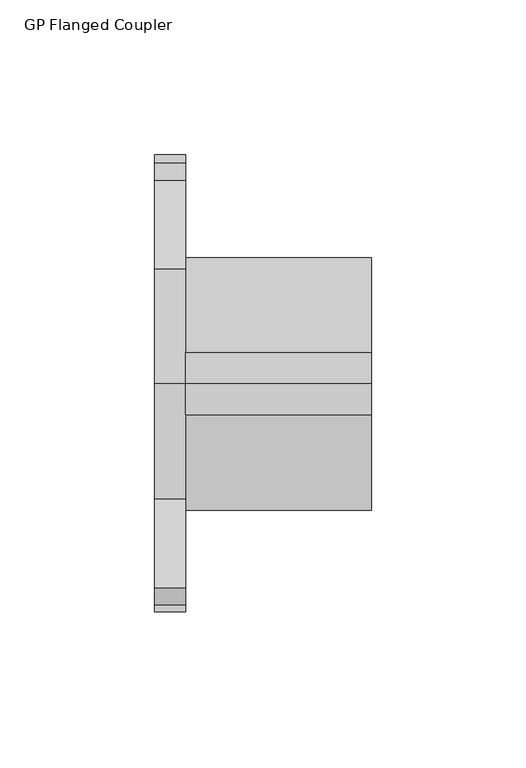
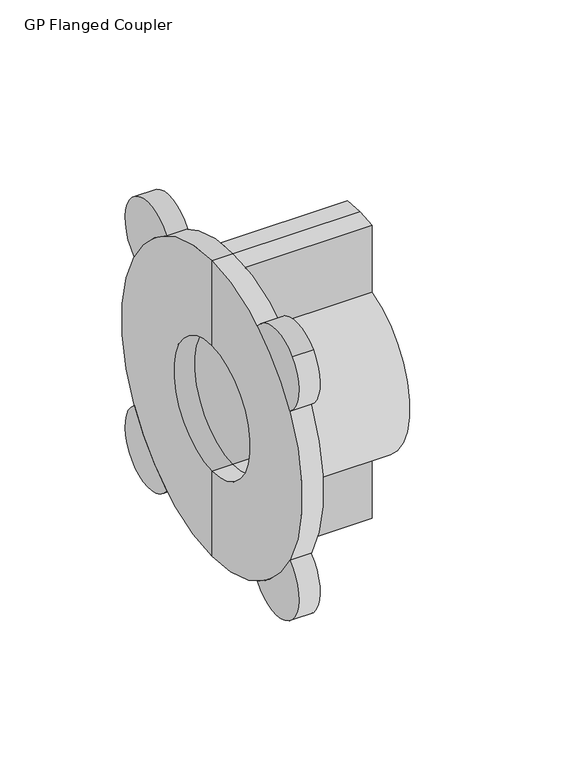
"""IFC4 building model written with IfcOpenShell, lengths in millimetres: pipe fitting geometry, Plumbing-Pipe-Fittings_Pexgol_Flange-GP-Flange-Coupling : GP Flanged Coupler."""

from ifc_helpers import new_model, si_unit, point, frame, frame_2d, origin, origin_2d, place, context, project, spatial, polyline, circle_curve, trimmed, segment, composite_curve, outline, extrude, source, transform, mapped, element, save
from ifc_brep_helpers import plane_surface, cylinder_surface, revolved_surface, advanced_brep


def gp_flanged_coupler_8253ec33(model_context):
    return source(origin(), model_context, "Body", "SolidModel", [
        extrude(outline(composite_curve([segment(trimmed(circle_curve(frame_2d((-52.3259018, -52.3259018)), 19.0), [point((-37.2772771, -63.9249921))], [point((-65.7609307, -65.7609307))], False, "CARTESIAN"), True, "CONTINUOUS"), segment(trimmed(circle_curve(frame_2d((-52.3259018, -52.3259018)), 19.0), [point((-65.7609307, -65.7609307))], [point((-63.9249921, -37.2772771))], False, "CARTESIAN"), True, "CONTINUOUS"), segment(trimmed(circle_curve(origin_2d(), 74.0), [point((-63.9249921, -37.2772771))], [point((-37.2772771, -63.9249921))], True, "CARTESIAN"), True, "CONTINUOUS")], self_intersect=False)), frame((0.0, 0.0, 0.0), z_axis=(1.0, 0.0, 0.0), x_axis=(0.0, 1.0, 0.0)), (0.0, 0.0, 1.0), 10.0),
        extrude(outline(composite_curve([segment(trimmed(circle_curve(frame_2d((52.3259018, -52.3259018)), 19.0), [point((63.9249921, -37.2772771))], [point((65.7609307, -65.7609307))], False, "CARTESIAN"), True, "CONTINUOUS"), segment(trimmed(circle_curve(frame_2d((52.3259018, -52.3259018)), 19.0), [point((65.7609307, -65.7609307))], [point((37.2772771, -63.9249921))], False, "CARTESIAN"), True, "CONTINUOUS"), segment(trimmed(circle_curve(origin_2d(), 74.0), [point((37.2772771, -63.9249921))], [point((63.9249921, -37.2772771))], True, "CARTESIAN"), True, "CONTINUOUS")], self_intersect=False)), frame((0.0, 0.0, 0.0), z_axis=(1.0, 0.0, 0.0), x_axis=(0.0, 1.0, 0.0)), (0.0, 0.0, 1.0), 10.0),
        extrude(outline(composite_curve([segment(trimmed(circle_curve(frame_2d((-52.3259018, 52.3259018)), 19.0), [point((-63.9249921, 37.2772771))], [point((-65.7609307, 65.7609307))], False, "CARTESIAN"), True, "CONTINUOUS"), segment(trimmed(circle_curve(frame_2d((-52.3259018, 52.3259018)), 19.0), [point((-65.7609307, 65.7609307))], [point((-37.2772771, 63.9249921))], False, "CARTESIAN"), True, "CONTINUOUS"), segment(trimmed(circle_curve(origin_2d(), 74.0), [point((-37.2772771, 63.9249921))], [point((-63.9249921, 37.2772771))], True, "CARTESIAN"), True, "CONTINUOUS")], self_intersect=False)), frame((0.0, 0.0, 0.0), z_axis=(1.0, 0.0, 0.0), x_axis=(0.0, 1.0, 0.0)), (0.0, 0.0, 1.0), 10.0),
        extrude(outline(composite_curve([segment(trimmed(circle_curve(frame_2d((52.3259018, 52.3259018)), 19.0), [point((37.2772771, 63.9249921))], [point((65.7609307, 65.7609307))], False, "CARTESIAN"), True, "CONTINUOUS"), segment(trimmed(circle_curve(frame_2d((52.3259018, 52.3259018)), 19.0), [point((65.7609307, 65.7609307))], [point((63.9249921, 37.2772771))], False, "CARTESIAN"), True, "CONTINUOUS"), segment(trimmed(circle_curve(origin_2d(), 74.0), [point((63.9249921, 37.2772771))], [point((37.2772771, 63.9249921))], True, "CARTESIAN"), True, "CONTINUOUS")], self_intersect=False)), frame((0.0, 0.0, 0.0), z_axis=(1.0, 0.0, 0.0), x_axis=(0.0, 1.0, 0.0)), (0.0, 0.0, 1.0), 10.0),
        advanced_brep(
        [(70.0, 0.0, -31.5), (70.0, 0.0, 31.5), (70.0, 0.0, 74.0), (70.0, -10.0, 73.3212111), (70.0, -10.0, 39.7617907), (70.0, -10.0, -39.7617907), (70.0, -10.0, -73.3212111), (70.0, 0.0, -74.0), (10.0, 0.0, -31.5), (10.0, 0.0, -74.0), (0.0, 0.0, -74.0), (0.0, 0.0, -31.5), (10.0, 0.0, 31.5), (0.0, 0.0, 31.5), (0.0, 0.0, 74.0), (10.0, 0.0, 74.0), (10.0, -10.0, 39.7617907), (10.0, -10.0, -39.7617907), (10.0, -10.0, 73.3212111), (10.0, -10.0, -73.3212111)],
        [
            (0, 1, circle_curve(frame((70.0, 0.0, 0.0), z_axis=(-1.0, 0.0, 0.0), x_axis=(0.0, 1.0, 0.0)), 31.5)),
            (1, 2),
            (2, 3, circle_curve(frame((70.0, 0.0, 0.0), z_axis=(1.0, 0.0, 0.0), x_axis=(0.0, 1.0, 0.0)), 74.0)),
            (3, 4),
            (4, 5, circle_curve(frame((70.0, 0.0, 0.0), z_axis=(1.0, 0.0, 0.0), x_axis=(0.0, 1.0, 0.0)), 41.0)),
            (5, 6),
            (6, 7, circle_curve(frame((70.0, 0.0, 0.0), z_axis=(1.0, 0.0, 0.0), x_axis=(0.0, 1.0, 0.0)), 74.0)),
            (7, 0),
            (8, 0),
            (7, 9),
            (9, 10),
            (10, 11),
            (11, 8),
            (8, 12, circle_curve(frame((10.0, 0.0, 0.0), z_axis=(-1.0, 0.0, 0.0), x_axis=(0.0, 1.0, 0.0)), 31.5)),
            (12, 1),
            (12, 13),
            (13, 14),
            (14, 15),
            (15, 2),
            (4, 16),
            (16, 17, circle_curve(frame((10.0, 0.0, 0.0), z_axis=(1.0, 0.0, 0.0), x_axis=(0.0, 1.0, 0.0)), 41.0)),
            (17, 5),
            (15, 18, circle_curve(frame((10.0, 0.0, 0.0), z_axis=(1.0, 0.0, 0.0), x_axis=(0.0, 1.0, 0.0)), 74.0)),
            (18, 3),
            (18, 16),
            (6, 19),
            (19, 9, circle_curve(frame((10.0, 0.0, 0.0), z_axis=(1.0, 0.0, 0.0), x_axis=(0.0, 1.0, 0.0)), 74.0)),
            (17, 19),
            (18, 19, circle_curve(frame((10.0, 0.0, 0.0), z_axis=(1.0, 0.0, 0.0), x_axis=(0.0, 1.0, 0.0)), 74.0)),
            (10, 14, circle_curve(frame((0.0, 0.0, 0.0), z_axis=(-1.0, 0.0, 0.0), x_axis=(0.0, 1.0, 0.0)), 74.0)),
            (13, 11, circle_curve(frame((0.0, 0.0, 0.0), z_axis=(1.0, 0.0, 0.0), x_axis=(0.0, 1.0, 0.0)), 31.5)),
        ],
        [
            plane_surface(frame((70.0, 0.0, -31.5), z_axis=(1.0, 0.0, 0.0), x_axis=(0.0, 0.0, 1.0))),
            plane_surface(frame((70.0, 0.0, -41.0), z_axis=(0.0, 1.0, 0.0), x_axis=(-1.0, 0.0, 0.0))),
            revolved_surface(polyline([(10.0, 31.5, 0.0), (70.0, 31.5, 0.0)]), (10.0, 0.0, 0.0), (-1.0, 0.0, 0.0)),
            plane_surface(frame((70.0, 0.0, 31.5), z_axis=(0.0, 1.0, 0.0), x_axis=(-1.0, 0.0, 0.0))),
            cylinder_surface(frame((10.0, 0.0, 0.0), z_axis=(1.0, 0.0, 0.0), x_axis=(0.0, 1.0, 0.0)), 41.0),
            cylinder_surface(frame((10.0, 0.0, 0.0), z_axis=(1.0, 0.0, 0.0), x_axis=(0.0, 1.0, 0.0)), 74.0),
            plane_surface(frame((70.0, -10.0, 73.3212111), z_axis=(0.0, -1.0, 0.0), x_axis=(-1.0, 0.0, 0.0))),
            plane_surface(frame((70.0, -10.0, -39.7617907), z_axis=(0.0, -1.0, 0.0), x_axis=(-1.0, 0.0, 0.0))),
            plane_surface(frame((10.0, 0.0, -31.5), z_axis=(1.0, 0.0, 0.0), x_axis=(0.0, 0.0, 1.0))),
            plane_surface(frame((0.0, 0.0, -31.5), z_axis=(-1.0, 0.0, 0.0), x_axis=(0.0, 0.0, -1.0))),
            revolved_surface(polyline([(0.0, 31.5, 0.0), (10.0, 31.5, 0.0)]), (0.0, 0.0, 0.0), (-1.0, 0.0, 0.0)),
            cylinder_surface(frame((0.0, 0.0, 0.0), z_axis=(1.0, 0.0, 0.0), x_axis=(0.0, 1.0, 0.0)), 74.0),
        ],
        [
            (0, [[1, 2, 3, 4, 5, 6, 7, 8]]),
            (1, [[9, -8, 10, 11, 12, 13]]),
            (2, [[-1, -9, 14, 15]]),
            (3, [[-15, 16, 17, 18, 19, -2]]),
            (4, [[20, 21, 22, -5]]),
            (5, [[-3, -19, 23, 24]]),
            (6, [[-4, -24, 25, -20]]),
            (5, [[-7, 26, 27, -10]]),
            (7, [[-6, -22, 28, -26]]),
            (8, [[29, -28, -21, -25]]),
            (9, [[30, -17, 31, -12]]),
            (10, [[-31, -16, -14, -13]]),
            (11, [[-30, -11, -27, -29, -23, -18]]),
        ],
    ),
        advanced_brep(
        [(70.0, 0.0, 31.5), (70.0, 0.0, -31.5), (70.0, 0.0, -74.0), (70.0, 10.0, -73.3212111), (70.0, 10.0, -39.7617907), (70.0, 10.0, 39.7617907), (70.0, 10.0, 73.3212111), (70.0, 0.0, 74.0), (10.0, 0.0, -31.5), (0.0, 0.0, -31.5), (0.0, 0.0, -74.0), (10.0, 0.0, -74.0), (10.0, 0.0, 31.5), (10.0, 0.0, 74.0), (0.0, 0.0, 74.0), (0.0, 0.0, 31.5), (10.0, 10.0, 39.7617907), (10.0, 10.0, -39.7617907), (10.0, 10.0, 73.3212111), (10.0, 10.0, -73.3212111)],
        [
            (0, 1, circle_curve(frame((70.0, 0.0, 0.0), z_axis=(-1.0, 0.0, 0.0), x_axis=(0.0, -1.0, 0.0)), 31.5)),
            (1, 2),
            (2, 3, circle_curve(frame((70.0, 0.0, 0.0), z_axis=(1.0, 0.0, 0.0), x_axis=(0.0, -1.0, 0.0)), 74.0)),
            (3, 4),
            (4, 5, circle_curve(frame((70.0, 0.0, 0.0), z_axis=(1.0, 0.0, 0.0), x_axis=(0.0, -1.0, 0.0)), 41.0)),
            (5, 6),
            (6, 7, circle_curve(frame((70.0, 0.0, 0.0), z_axis=(1.0, 0.0, 0.0), x_axis=(0.0, -1.0, 0.0)), 74.0)),
            (7, 0),
            (1, 8),
            (8, 9),
            (9, 10),
            (10, 11),
            (11, 2),
            (0, 12),
            (12, 8, circle_curve(frame((10.0, 0.0, 0.0), z_axis=(-1.0, 0.0, 0.0), x_axis=(0.0, -1.0, 0.0)), 31.5)),
            (7, 13),
            (13, 14),
            (14, 15),
            (15, 12),
            (16, 5),
            (4, 17),
            (17, 16, circle_curve(frame((10.0, 0.0, 0.0), z_axis=(1.0, 0.0, 0.0), x_axis=(0.0, -1.0, 0.0)), 41.0)),
            (6, 18),
            (18, 13, circle_curve(frame((10.0, 0.0, 0.0), z_axis=(1.0, 0.0, 0.0), x_axis=(0.0, -1.0, 0.0)), 74.0)),
            (16, 18),
            (11, 19, circle_curve(frame((10.0, 0.0, 0.0), z_axis=(1.0, 0.0, 0.0), x_axis=(0.0, -1.0, 0.0)), 74.0)),
            (19, 3),
            (19, 17),
            (19, 18, circle_curve(frame((10.0, 0.0, 0.0), z_axis=(1.0, 0.0, 0.0), x_axis=(0.0, -1.0, 0.0)), 74.0)),
            (9, 15, circle_curve(frame((0.0, 0.0, 0.0), z_axis=(1.0, 0.0, 0.0), x_axis=(0.0, -1.0, 0.0)), 31.5)),
            (14, 10, circle_curve(frame((0.0, 0.0, 0.0), z_axis=(-1.0, 0.0, 0.0), x_axis=(0.0, -1.0, 0.0)), 74.0)),
        ],
        [
            plane_surface(frame((70.0, -41.0, 0.0), z_axis=(1.0, 0.0, 0.0), x_axis=(0.0, 0.0, -1.0))),
            plane_surface(frame((70.0, 0.0, -31.5), z_axis=(0.0, -1.0, 0.0), x_axis=(-1.0, 0.0, 0.0))),
            revolved_surface(polyline([(10.0, -31.5, 0.0), (70.0, -31.5, 0.0)]), (10.0, 0.0, 0.0), (-1.0, 0.0, 0.0)),
            plane_surface(frame((70.0, 0.0, 41.0), z_axis=(0.0, -1.0, 0.0), x_axis=(-1.0, 0.0, 0.0))),
            cylinder_surface(frame((10.0, 0.0, 0.0), z_axis=(1.0, 0.0, 0.0), x_axis=(0.0, -1.0, 0.0)), 41.0),
            cylinder_surface(frame((10.0, 0.0, 0.0), z_axis=(1.0, 0.0, 0.0), x_axis=(0.0, -1.0, 0.0)), 74.0),
            plane_surface(frame((70.0, 10.0, 39.7617907), z_axis=(0.0, 1.0, 0.0), x_axis=(-1.0, 0.0, 0.0))),
            plane_surface(frame((70.0, 10.0, -73.3212111), z_axis=(0.0, 1.0, 0.0), x_axis=(-1.0, 0.0, 0.0))),
            plane_surface(frame((10.0, -74.0, 0.0), z_axis=(1.0, 0.0, 0.0), x_axis=(0.0, 0.0, -1.0))),
            plane_surface(frame((0.0, -74.0, 0.0), z_axis=(-1.0, 0.0, 0.0), x_axis=(0.0, 0.0, 1.0))),
            revolved_surface(polyline([(0.0, -31.5, 0.0), (10.0, -31.5, 0.0)]), (0.0, 0.0, 0.0), (-1.0, 0.0, 0.0)),
            cylinder_surface(frame((0.0, 0.0, 0.0), z_axis=(1.0, 0.0, 0.0), x_axis=(0.0, -1.0, 0.0)), 74.0),
        ],
        [
            (0, [[1, 2, 3, 4, 5, 6, 7, 8]]),
            (1, [[9, 10, 11, 12, 13, -2]]),
            (2, [[-1, 14, 15, -9]]),
            (3, [[-14, -8, 16, 17, 18, 19]]),
            (4, [[20, -5, 21, 22]]),
            (5, [[-7, 23, 24, -16]]),
            (6, [[-6, -20, 25, -23]]),
            (5, [[-3, -13, 26, 27]]),
            (7, [[-4, -27, 28, -21]]),
            (8, [[29, -25, -22, -28]]),
            (9, [[-11, 30, -18, 31]]),
            (10, [[-30, -10, -15, -19]]),
            (11, [[-31, -17, -24, -29, -26, -12]]),
        ],
    ),
    ])


if __name__ == "__main__":
    model = new_model("IFC4")
    model_context = context("Model", 3, world=origin())
    ifc_project = project(units=[si_unit("LENGTHUNIT", "METRE", prefix="MILLI")], contexts=[model_context])
    site = spatial("IfcSite", under=ifc_project)
    building = spatial("IfcBuilding", under=site)
    placement = place(None, origin())
    gp_flanged_coupler_shape = gp_flanged_coupler_8253ec33(model_context)
    element("IfcPipeFitting", 1, ObjectType="Plumbing-Pipe-Fittings_Pexgol_Flange-GP-Flange-Coupling : GP Flanged Coupler", at=placement, inside=building, context=model_context, shape_type="MappedRepresentation", body=[
        mapped(gp_flanged_coupler_shape, transform((0.0, 0.0, 0.0), x_axis=(1.0, 0.0, 0.0), y_axis=(0.0, 1.0, 0.0), z_axis=(0.0, 0.0, 1.0))),
    ])
    save(model, "model.ifc")
